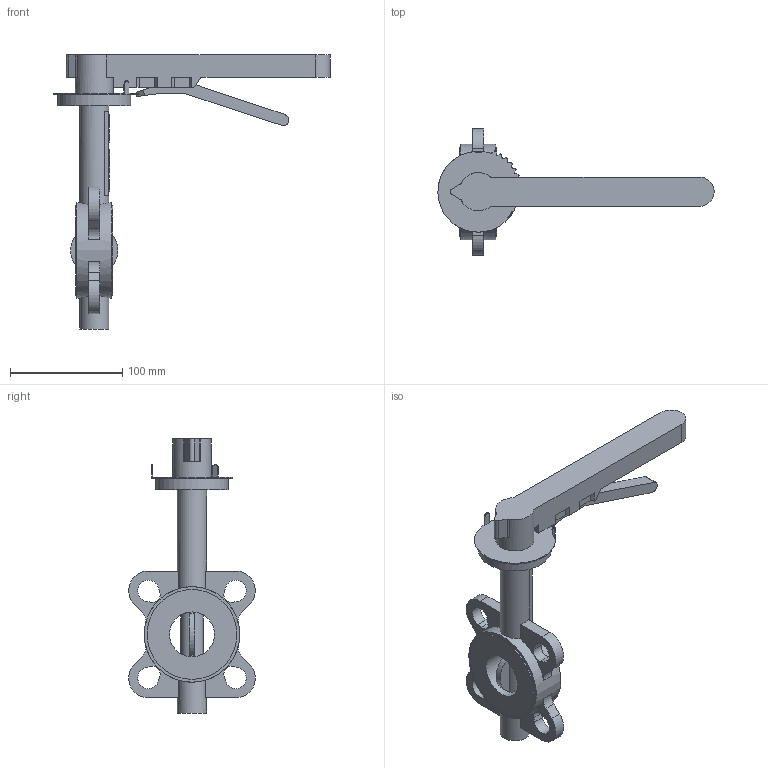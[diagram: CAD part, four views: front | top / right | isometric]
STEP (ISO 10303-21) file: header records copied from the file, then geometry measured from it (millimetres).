
FILE_DESCRIPTION(('STEP AP203'), '1');
FILE_NAME('Çàòâîð 017W.ZS DN40 PN10_16 ðóêîÿòêà', '', ('UNSPECIFIED'), ('UNSPECIFIED'), 'ASCON STEP Converter 1.6', 'ASCON Math Kernel', '');
FILE_SCHEMA(('CONFIG_CONTROL_DESIGN'));
Length unit declared in the file: millimetre
Bounding box: 245.97 x 112.73 x 244 mm (x, y, z)
Volume: 164924.6 mm3; surface area: 92763.8 mm2
Topology: 1 solids, 2 shells, 702 faces, 2066 edges, 1332 vertices
Faces by surface type: cylinder 460, plane 242
Full cylindrical faces by diameter (mm): 8 x4, 12.6 x1, 20 x1, 26 x2, 34 x1, 35 x1, 40 x1, 65 x1, 80 x2, 85 x1
Entity records: 30257 total; most frequent: CARTESIAN_POINT 5039, DIRECTION 4413, ORIENTED_EDGE 4041, EDGE_CURVE 2052, AXIS2_PLACEMENT_3D 1681, VERTEX_POINT 1332, LINE 1051, VECTOR 1051
